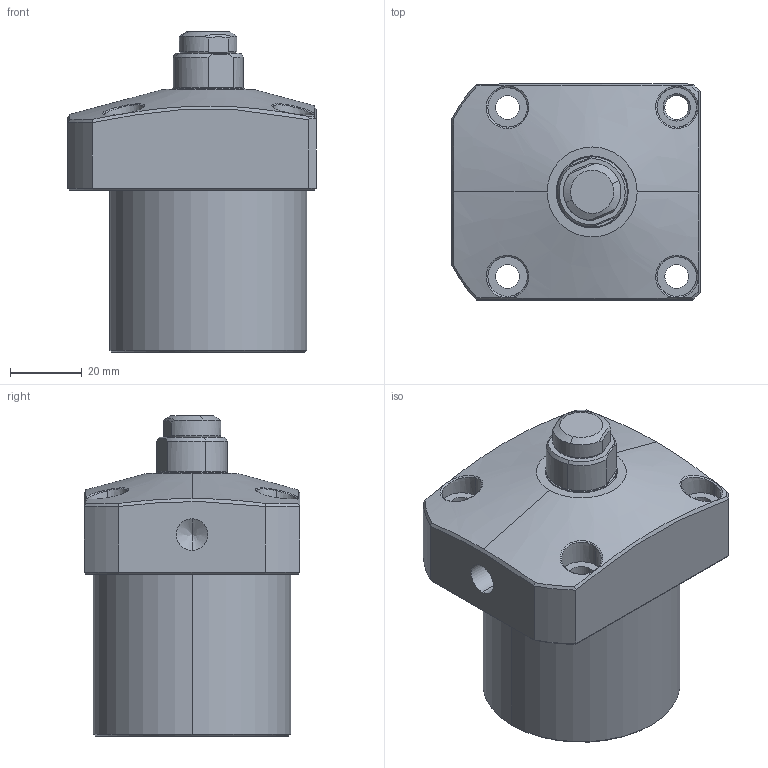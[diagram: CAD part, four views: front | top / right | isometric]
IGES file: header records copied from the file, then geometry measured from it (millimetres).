
Start section: SolidWorks IGES file using analytic representation for surfaces
Global section: file name: E:\FLANGE-WORK-SUPPORT-IGS MODEL\FW10-0553.IGS; native system: SolidWorks 2019; preprocessor: SolidWorks 2019; author: ADMIN; date: 200807.091214; units: millimetre
Bounding box: 69 x 60 x 89 mm (x, y, z)
Volume: 202801.3 mm3; surface area: 31279.6 mm2
Topology: 3 solids, 3 shells, 137 faces, 322 edges, 199 vertices
Faces by surface type: revolution 83, plane 38, bspline 16
